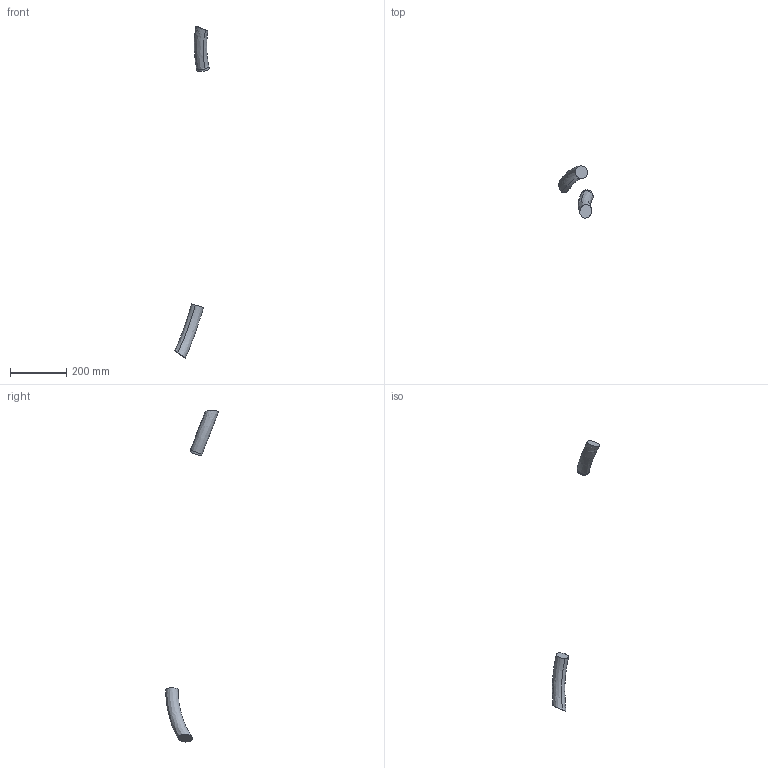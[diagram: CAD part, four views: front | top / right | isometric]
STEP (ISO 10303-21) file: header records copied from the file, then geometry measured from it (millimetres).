
FILE_DESCRIPTION (( 'STEP AP214' ), '1' );
FILE_NAME ('IRB6730S-ALL-OC_00_LINK02m_CABLE.step', '2026-05-26T10:36:21', ( '' ), ( '' ), 'SwSTEP 2.0', 'SolidWorks 2024', '' );
FILE_SCHEMA (( 'AUTOMOTIVE_DESIGN' ));
Length unit declared in the file: millimetre
Products named in the file (1): IRB6730S-ALL-OC_00_LINK02m_CABLE
Bounding box: 122.97 x 187.55 x 1182.33 mm (x, y, z)
Volume: 554124.9 mm3; surface area: 56035.4 mm2
Topology: 2 solids, 2 shells, 10 faces, 18 edges, 12 vertices
Faces by surface type: bspline 4, plane 4, cylinder 2
Entity records: 2048 total; most frequent: CARTESIAN_POINT 1839, ORIENTED_EDGE 36, DIRECTION 32, EDGE_CURVE 18, AXIS2_PLACEMENT_3D 15, VERTEX_POINT 12, ADVANCED_FACE 10, EDGE_LOOP 10
